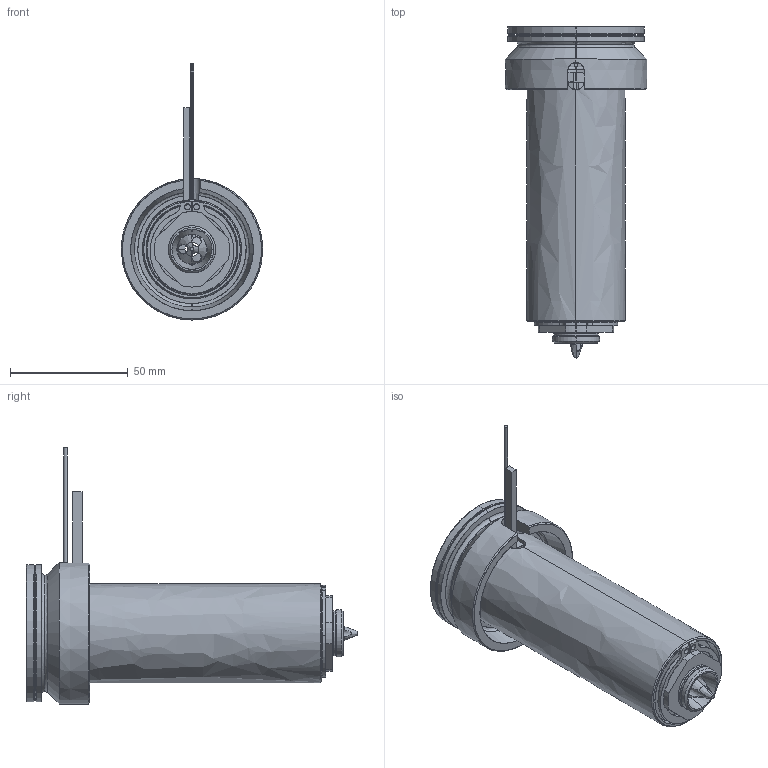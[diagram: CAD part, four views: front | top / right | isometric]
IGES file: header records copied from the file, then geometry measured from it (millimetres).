
Start section: SolidWorks IGES file using analytic representation for surfaces
Global section: file name: C:\Documents and Settings\ws-20\Desktop\TEM\UGEP6005-S-A-0 [Øf-1.6 ØC-16].IGS; native system: SolidWorks 2012; preprocessor: SolidWorks 2012; author: ws-20; date: 120427.094057; units: millimetre
Bounding box: 60 x 140.8 x 108.65 mm (x, y, z)
Surface area: 64704.2 mm2 (no closed solid volume)
Topology: 0 solids, 0 shells, 129 faces, 2470 edges, 2470 vertices
Faces by surface type: revolution 85, bspline 44
